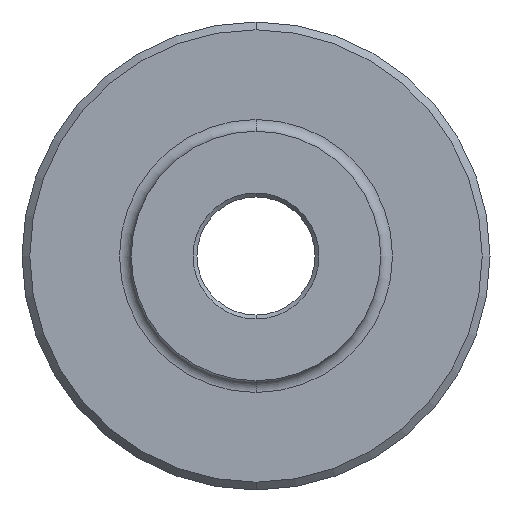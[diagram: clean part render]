
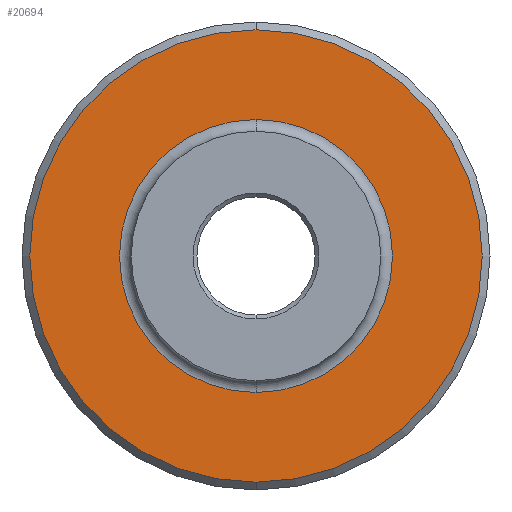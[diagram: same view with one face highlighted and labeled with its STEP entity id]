
A CAD part, front view. The second image highlights one B-rep face of the part: STEP entity #20694.
In plain terms, the highlighted planar face has unit normal (0, -1, 0).
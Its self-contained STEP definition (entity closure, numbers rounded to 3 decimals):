
#125 = FACE_OUTER_BOUND ( 'NONE', #21607, .T. ) ;
#526 = ORIENTED_EDGE ( 'NONE', *, *, #5437, .T. ) ;
#1713 = CARTESIAN_POINT ( 'NONE',  ( 103.495, -213.435, 162.185 ) ) ;
#2013 = ORIENTED_EDGE ( 'NONE', *, *, #4035, .T. ) ;
#2218 = CARTESIAN_POINT ( 'NONE',  ( 103.495, -213.435, 104.185 ) ) ;
#2290 = AXIS2_PLACEMENT_3D ( 'NONE', #14166, #5696, #14293 ) ;
#2587 = CIRCLE ( 'NONE', #15387, 58. ) ;
#3010 = AXIS2_PLACEMENT_3D ( 'NONE', #8486, #22372, #13745 ) ;
#3409 = DIRECTION ( 'NONE',  ( 0., 1., 0. ) ) ;
#3996 = CARTESIAN_POINT ( 'NONE',  ( 103.495, -213.435, 220.185 ) ) ;
#4035 = EDGE_CURVE ( 'NONE', #19712, #5183, #2587, .T. ) ;
#5075 = DIRECTION ( 'NONE',  ( 0., 0., 1. ) ) ;
#5183 = VERTEX_POINT ( 'NONE', #3996 ) ;
#5437 = EDGE_CURVE ( 'NONE', #13403, #21192, #12187, .T. ) ;
#5545 = CARTESIAN_POINT ( 'NONE',  ( 103.495, -213.435, 127.185 ) ) ;
#5696 = DIRECTION ( 'NONE',  ( 0., 1., 0. ) ) ;
#6031 = EDGE_CURVE ( 'NONE', #5183, #19712, #21609, .T. ) ;
#7057 = CARTESIAN_POINT ( 'NONE',  ( 103.495, -213.435, 162.185 ) ) ;
#8486 = CARTESIAN_POINT ( 'NONE',  ( 103.495, -213.435, 162.185 ) ) ;
#8500 = CARTESIAN_POINT ( 'NONE',  ( 103.495, -213.435, 197.185 ) ) ;
#10408 = DIRECTION ( 'NONE',  ( 0., 1., 0. ) ) ;
#10594 = CARTESIAN_POINT ( 'NONE',  ( 103.495, -213.435, 162.185 ) ) ;
#12146 = ORIENTED_EDGE ( 'NONE', *, *, #6031, .T. ) ;
#12187 = CIRCLE ( 'NONE', #2290, 35. ) ;
#12245 = DIRECTION ( 'NONE',  ( 0., 0., 1. ) ) ;
#12423 = DIRECTION ( 'NONE',  ( 0., -1., 0. ) ) ;
#12592 = EDGE_CURVE ( 'NONE', #21192, #13403, #18450, .T. ) ;
#12593 = ORIENTED_EDGE ( 'NONE', *, *, #12592, .T. ) ;
#13003 = AXIS2_PLACEMENT_3D ( 'NONE', #7057, #10408, #20761 ) ;
#13403 = VERTEX_POINT ( 'NONE', #5545 ) ;
#13745 = DIRECTION ( 'NONE',  ( 0., 0., 1. ) ) ;
#14166 = CARTESIAN_POINT ( 'NONE',  ( 103.495, -213.435, 162.185 ) ) ;
#14293 = DIRECTION ( 'NONE',  ( 0., 0., 1. ) ) ;
#15387 = AXIS2_PLACEMENT_3D ( 'NONE', #10594, #12423, #5075 ) ;
#17683 = AXIS2_PLACEMENT_3D ( 'NONE', #1713, #3409, #12245 ) ;
#18450 = CIRCLE ( 'NONE', #13003, 35. ) ;
#18678 = EDGE_LOOP ( 'NONE', ( #12593, #526 ) ) ;
#19060 = PLANE ( 'NONE',  #17683 ) ;
#19712 = VERTEX_POINT ( 'NONE', #2218 ) ;
#20694 = ADVANCED_FACE ( 'NONE', ( #125, #20979 ), #19060, .F. ) ;
#20761 = DIRECTION ( 'NONE',  ( 0., 0., 1. ) ) ;
#20979 = FACE_BOUND ( 'NONE', #18678, .T. ) ;
#21192 = VERTEX_POINT ( 'NONE', #8500 ) ;
#21607 = EDGE_LOOP ( 'NONE', ( #12146, #2013 ) ) ;
#21609 = CIRCLE ( 'NONE', #3010, 58. ) ;
#22372 = DIRECTION ( 'NONE',  ( 0., -1., 0. ) ) ;
